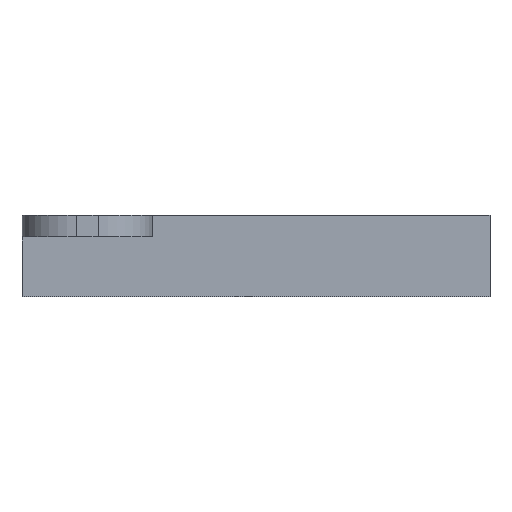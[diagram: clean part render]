
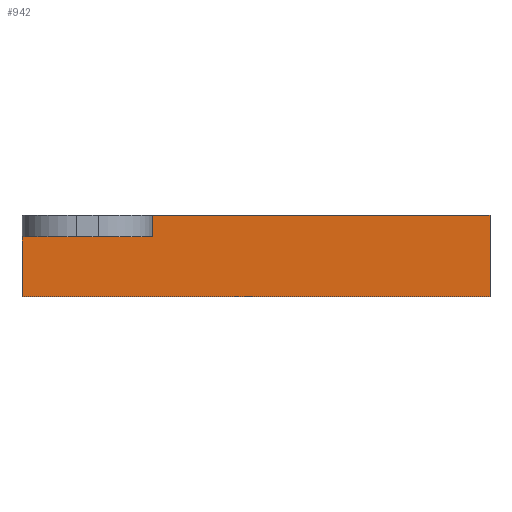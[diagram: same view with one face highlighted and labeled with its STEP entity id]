
A CAD part, front view. The second image highlights one B-rep face of the part: STEP entity #942.
In plain terms, the highlighted planar face has unit normal (0, -1, 0).
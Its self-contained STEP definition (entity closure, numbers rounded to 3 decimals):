
#32=PLANE('',#1005);
#73=FACE_OUTER_BOUND('',#122,.T.);
#122=EDGE_LOOP('',(#744,#745,#746,#747,#748,#749));
#166=LINE('',#1308,#296);
#209=LINE('',#1396,#339);
#212=LINE('',#1403,#342);
#213=LINE('',#1406,#343);
#214=LINE('',#1408,#344);
#215=LINE('',#1409,#345);
#296=VECTOR('',#1072,10.);
#339=VECTOR('',#1127,10.);
#342=VECTOR('',#1136,10.);
#343=VECTOR('',#1139,10.);
#344=VECTOR('',#1140,10.);
#345=VECTOR('',#1141,10.);
#436=VERTEX_POINT('',#1305);
#437=VERTEX_POINT('',#1307);
#475=VERTEX_POINT('',#1393);
#476=VERTEX_POINT('',#1395);
#478=VERTEX_POINT('',#1405);
#479=VERTEX_POINT('',#1407);
#532=EDGE_CURVE('',#436,#437,#166,.T.);
#576=EDGE_CURVE('',#476,#475,#209,.T.);
#580=EDGE_CURVE('',#436,#476,#212,.T.);
#581=EDGE_CURVE('',#475,#478,#213,.T.);
#582=EDGE_CURVE('',#479,#478,#214,.T.);
#583=EDGE_CURVE('',#437,#479,#215,.T.);
#744=ORIENTED_EDGE('',*,*,#580,.T.);
#745=ORIENTED_EDGE('',*,*,#576,.T.);
#746=ORIENTED_EDGE('',*,*,#581,.T.);
#747=ORIENTED_EDGE('',*,*,#582,.F.);
#748=ORIENTED_EDGE('',*,*,#583,.F.);
#749=ORIENTED_EDGE('',*,*,#532,.F.);
#942=ADVANCED_FACE('',(#73),#32,.T.);
#1005=AXIS2_PLACEMENT_3D('',#1404,#1137,#1138);
#1072=DIRECTION('',(1.,0.,0.));
#1127=DIRECTION('',(-1.,0.,0.));
#1136=DIRECTION('',(0.,0.,-1.));
#1137=DIRECTION('center_axis',(0.,-1.,0.));
#1138=DIRECTION('ref_axis',(-1.,0.,0.));
#1139=DIRECTION('',(0.,0.,-1.));
#1140=DIRECTION('',(-1.,0.,0.));
#1141=DIRECTION('',(0.,0.,-1.));
#1305=CARTESIAN_POINT('',(20.5,-5.,0.));
#1307=CARTESIAN_POINT('',(82.5,-5.,0.));
#1308=CARTESIAN_POINT('',(-3.5,-5.,0.));
#1393=CARTESIAN_POINT('',(-3.5,-5.,-4.));
#1395=CARTESIAN_POINT('',(20.5,-5.,-4.));
#1396=CARTESIAN_POINT('',(39.5,-5.,-4.));
#1403=CARTESIAN_POINT('',(20.5,-5.,-2.));
#1404=CARTESIAN_POINT('Origin',(82.5,-5.,0.));
#1405=CARTESIAN_POINT('',(-3.5,-5.,-15.));
#1406=CARTESIAN_POINT('',(-3.5,-5.,0.));
#1407=CARTESIAN_POINT('',(82.5,-5.,-15.));
#1408=CARTESIAN_POINT('',(-3.5,-5.,-15.));
#1409=CARTESIAN_POINT('',(82.5,-5.,0.));
